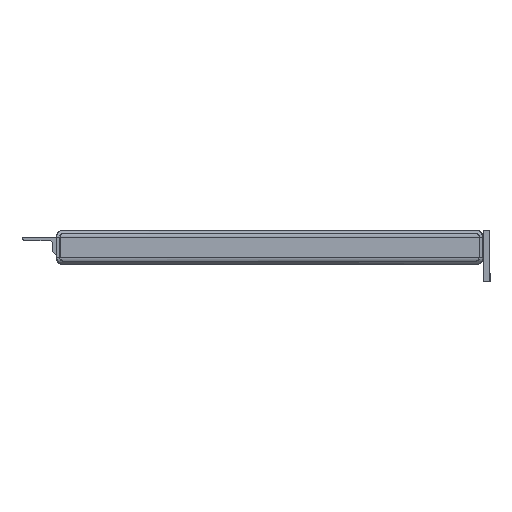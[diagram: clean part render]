
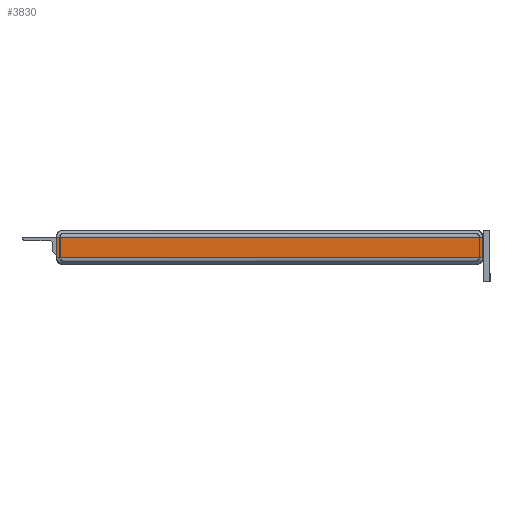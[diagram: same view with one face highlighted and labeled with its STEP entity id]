
A CAD part, left-side view. The second image highlights one B-rep face of the part: STEP entity #3830.
In plain terms, the highlighted planar face has unit normal (-1, 0, 0).
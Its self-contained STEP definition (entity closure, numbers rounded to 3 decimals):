
#64 = VERTEX_POINT ( 'NONE', #1739 ) ;
#83 = VERTEX_POINT ( 'NONE', #1166 ) ;
#101 = VERTEX_POINT ( 'NONE', #1184 ) ;
#119 = VERTEX_POINT ( 'NONE', #1202 ) ;
#528 = CARTESIAN_POINT ( 'NONE',  ( -40., 420., -12. ) ) ;
#531 = FACE_OUTER_BOUND ( 'NONE', #1485, .T. ) ;
#532 = PLANE ( 'NONE',  #2453 ) ;
#534 = DIRECTION ( 'NONE',  ( 1., 0., 0. ) ) ;
#535 = DIRECTION ( 'NONE',  ( 0., 0., -1. ) ) ;
#1166 = CARTESIAN_POINT ( 'NONE',  ( -40., 459.293, 12. ) ) ;
#1184 = CARTESIAN_POINT ( 'NONE',  ( -40., 459.293, -12. ) ) ;
#1202 = CARTESIAN_POINT ( 'NONE',  ( -40., -39.293, -12. ) ) ;
#1485 = EDGE_LOOP ( 'NONE', ( #3467, #3468, #3469, #3464 ) ) ;
#1739 = CARTESIAN_POINT ( 'NONE',  ( -40., -39.293, 12. ) ) ;
#1871 = LINE ( 'NONE', #1879, #2297 ) ;
#1875 = LINE ( 'NONE', #1877, #2296 ) ;
#1877 = CARTESIAN_POINT ( 'NONE',  ( -40., 420., 12. ) ) ;
#1878 = DIRECTION ( 'NONE',  ( 0., -1., 0. ) ) ;
#1879 = CARTESIAN_POINT ( 'NONE',  ( -40., -39.293, -12. ) ) ;
#1880 = DIRECTION ( 'NONE',  ( 0., 0., -1. ) ) ;
#1881 = LINE ( 'NONE', #1882, #2295 ) ;
#1882 = CARTESIAN_POINT ( 'NONE',  ( -40., 459.293, -12. ) ) ;
#1883 = DIRECTION ( 'NONE',  ( 0., 0., 1. ) ) ;
#1884 = LINE ( 'NONE', #1885, #2294 ) ;
#1885 = CARTESIAN_POINT ( 'NONE',  ( -40., 420., -12. ) ) ;
#1886 = DIRECTION ( 'NONE',  ( 0., -1., 0. ) ) ;
#2294 = VECTOR ( 'NONE', #1886, 1000. ) ;
#2295 = VECTOR ( 'NONE', #1883, 1000. ) ;
#2296 = VECTOR ( 'NONE', #1878, 1000. ) ;
#2297 = VECTOR ( 'NONE', #1880, 1000. ) ;
#2453 = AXIS2_PLACEMENT_3D ( 'NONE', #528, #534, #535 ) ;
#3464 = ORIENTED_EDGE ( 'NONE', *, *, #3962, .F. ) ;
#3467 = ORIENTED_EDGE ( 'NONE', *, *, #3964, .F. ) ;
#3468 = ORIENTED_EDGE ( 'NONE', *, *, #3965, .T. ) ;
#3469 = ORIENTED_EDGE ( 'NONE', *, *, #3963, .F. ) ;
#3830 = ADVANCED_FACE ( 'NONE', ( #531 ), #532, .F. ) ;
#3962 = EDGE_CURVE ( 'NONE', #83, #64, #1875, .T. ) ;
#3963 = EDGE_CURVE ( 'NONE', #64, #119, #1871, .T. ) ;
#3964 = EDGE_CURVE ( 'NONE', #101, #83, #1881, .T. ) ;
#3965 = EDGE_CURVE ( 'NONE', #101, #119, #1884, .T. ) ;
